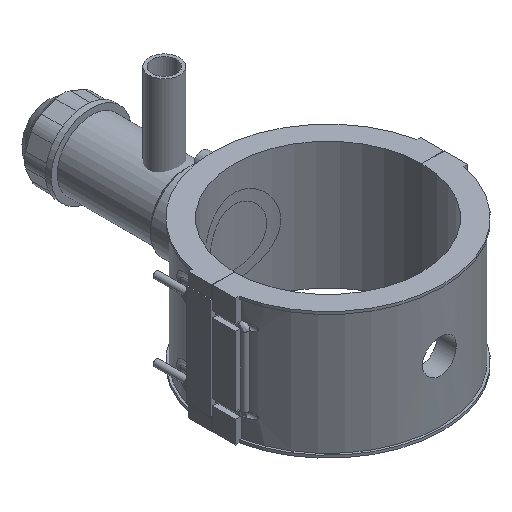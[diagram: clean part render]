
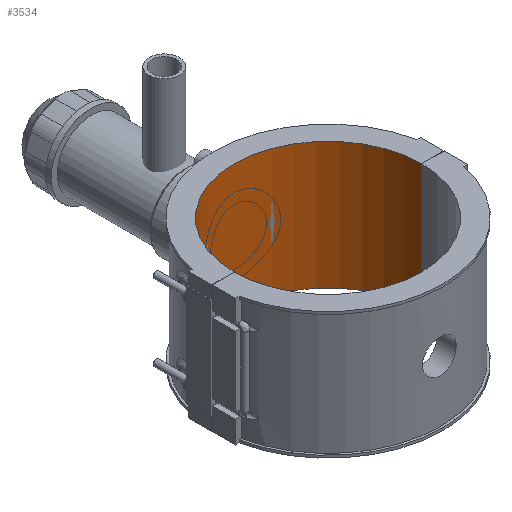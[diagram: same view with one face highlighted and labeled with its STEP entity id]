
A CAD part, isometric view. The second image highlights one B-rep face of the part: STEP entity #3534.
In plain terms, the highlighted cylindrical face has radius 87.25 mm (diameter 174.5 mm), a partial arc.
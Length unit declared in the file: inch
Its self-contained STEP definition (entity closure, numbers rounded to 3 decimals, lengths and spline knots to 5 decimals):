
#273=CIRCLE('',#3824,3.43504);
#274=CIRCLE('',#3826,3.43504);
#455=FACE_OUTER_BOUND('',#675,.T.);
#675=EDGE_LOOP('',(#2970,#2971,#2972,#2973));
#937=LINE('',#6426,#1253);
#972=LINE('',#6803,#1288);
#1253=VECTOR('',#4418,0.3937);
#1288=VECTOR('',#4553,0.3937);
#1651=VERTEX_POINT('',#6423);
#1652=VERTEX_POINT('',#6425);
#1691=VERTEX_POINT('',#6800);
#1692=VERTEX_POINT('',#6802);
#2074=EDGE_CURVE('',#1652,#1651,#937,.T.);
#2141=EDGE_CURVE('',#1692,#1691,#972,.T.);
#2144=EDGE_CURVE('',#1652,#1691,#273,.T.);
#2145=EDGE_CURVE('',#1692,#1651,#274,.T.);
#2970=ORIENTED_EDGE('',*,*,#2141,.T.);
#2971=ORIENTED_EDGE('',*,*,#2144,.F.);
#2972=ORIENTED_EDGE('',*,*,#2074,.T.);
#2973=ORIENTED_EDGE('',*,*,#2145,.F.);
#3393=CYLINDRICAL_SURFACE('',#3827,3.43504);
#3534=ADVANCED_FACE('',(#455),#3393,.F.);
#3824=AXIS2_PLACEMENT_3D('',#6808,#4558,#4559);
#3826=AXIS2_PLACEMENT_3D('',#6810,#4562,#4563);
#3827=AXIS2_PLACEMENT_3D('',#6812,#4565,#4566);
#4418=DIRECTION('',(0.,0.,-1.));
#4553=DIRECTION('',(0.,0.,1.));
#4558=DIRECTION('center_axis',(0.,0.,-1.));
#4559=DIRECTION('ref_axis',(-1.,0.,0.));
#4562=DIRECTION('center_axis',(0.,0.,1.));
#4563=DIRECTION('ref_axis',(-1.,0.,0.));
#4565=DIRECTION('center_axis',(0.,0.,1.));
#4566=DIRECTION('ref_axis',(-1.,0.,0.));
#6423=CARTESIAN_POINT('',(-3.43504,0.00197,-2.325));
#6425=CARTESIAN_POINT('',(-3.43504,0.00197,2.325));
#6426=CARTESIAN_POINT('',(-3.43504,0.00197,0.));
#6800=CARTESIAN_POINT('',(3.43504,0.00197,2.325));
#6802=CARTESIAN_POINT('',(3.43504,0.00197,-2.325));
#6803=CARTESIAN_POINT('',(3.43504,0.00197,0.));
#6808=CARTESIAN_POINT('Origin',(0.,0.,2.325));
#6810=CARTESIAN_POINT('Origin',(0.,0.,-2.325));
#6812=CARTESIAN_POINT('Origin',(0.,0.,0.));
